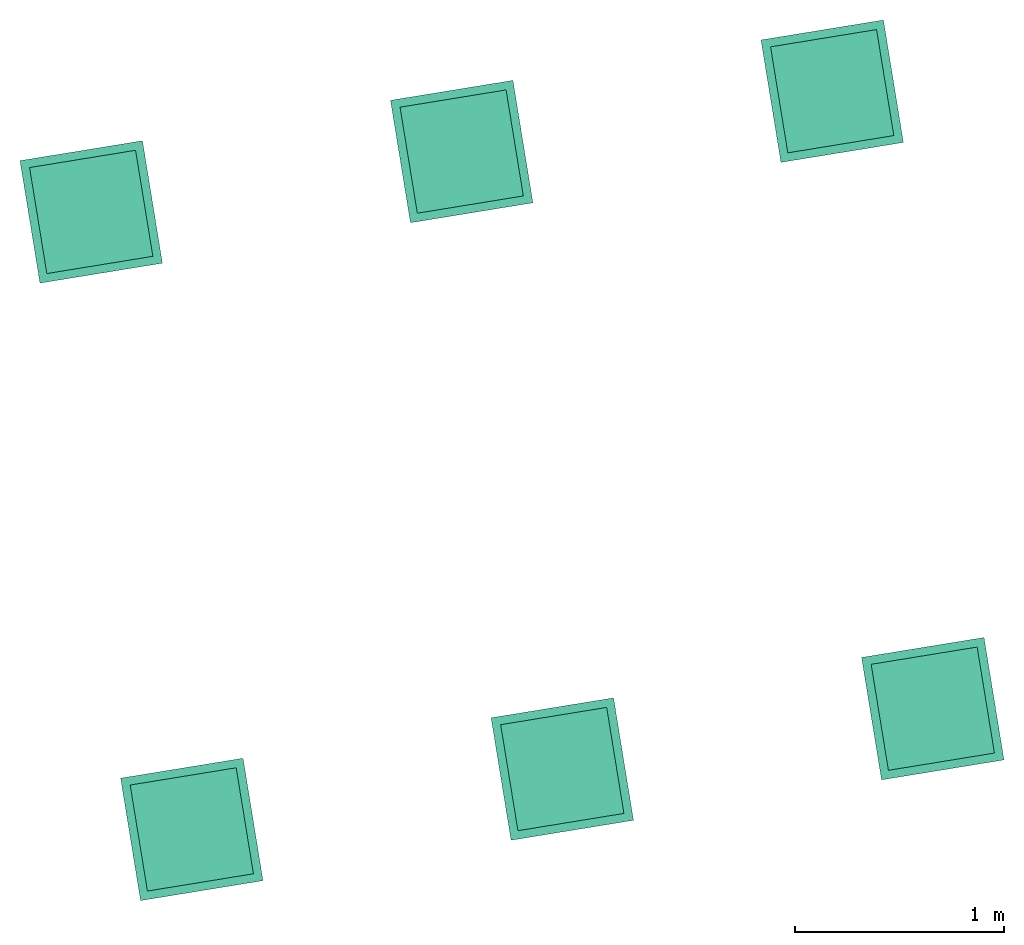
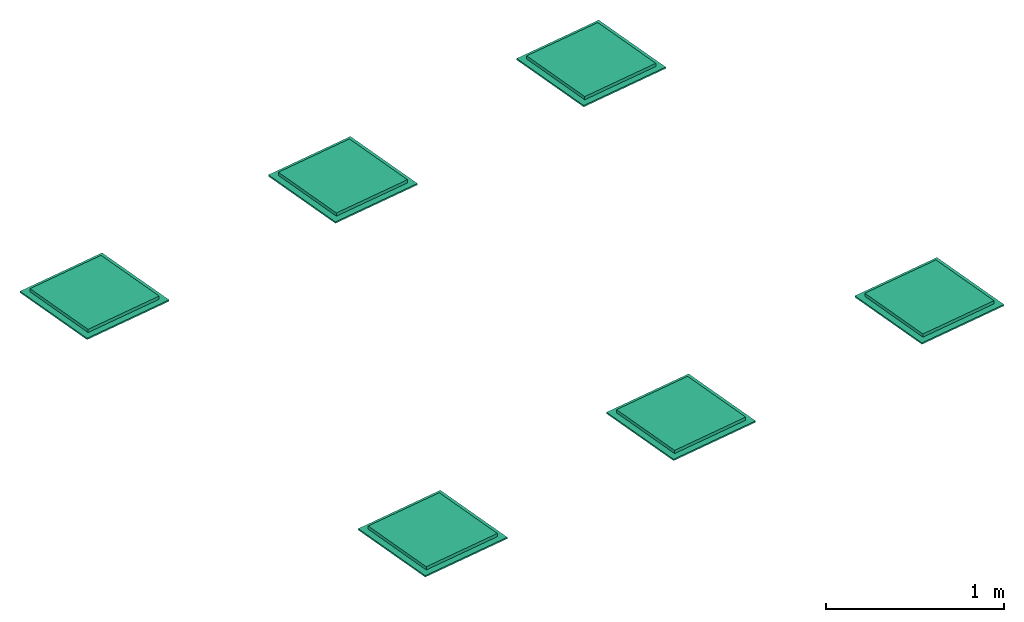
# One storey: 6 flow terminals.
"""IFC2X3 building model written with IfcOpenShell, lengths in millimetres."""

import ifcopenshell
import ifcopenshell.guid

model = None  # the IFC model being written
_history = None  # IfcOwnerHistory: only IFC2X3 demands one
_inside = {}  # id of a spatial element -> (the spatial element, [elements in it])
_under = {}  # id of a project, library or spatial element -> (it, [spatial elements below it])
_declared = {}  # id of a project -> (the project, [libraries it declares])
_typed = {}  # id of a type object -> (the type object, [elements of that type])
_made_of = {}  # id of a material, layer set ... -> (it, [elements and type objects made of it])


def new_model(schema):
    """Start an empty IFC model of exactly this schema.

    Asked for "IFC4X3", IfcOpenShell would pick the latest addendum, in which some entities
    have other attributes; the version numbers below select the first issue.
    IFC2X3 requires an IfcOwnerHistory on every rooted entity: one is made here for all.
    """
    global model, _history
    if schema == "IFC4X3":
        model = ifcopenshell.file(schema_version=(4, 3, 0, 0))
    else:
        model = ifcopenshell.file(schema=schema)
    _inside.clear()
    _under.clear()
    _declared.clear()
    _typed.clear()
    _made_of.clear()
    _history = None
    if model.schema == "IFC2X3":
        org = make("IfcOrganization", Name="unknown")
        user = make(
            "IfcPersonAndOrganization",
            ThePerson=make("IfcPerson", FamilyName="unknown"),
            TheOrganization=org,
        )
        app = make(
            "IfcApplication",
            ApplicationDeveloper=org,
            Version="unknown",
            ApplicationFullName="unknown",
            ApplicationIdentifier="unknown",
        )
        _history = make(
            "IfcOwnerHistory",
            OwningUser=user,
            OwningApplication=app,
            ChangeAction="ADDED",
            CreationDate=0,
        )
    return model


def make(cls, **values):
    """One entity of the class cls with the attributes given. An attribute that is None is left unset."""
    return model.create_entity(
        cls, **{name: value for name, value in values.items() if value is not None}
    )


def entity(cls, *values):
    """Any entity or typed value of the class cls, its attributes in the order of the schema. None: left unset."""
    e = model.create_entity(cls)
    for i, value in enumerate(values):
        if value is not None:
            e[i] = value
    return e


def rooted(cls, **values):
    """An entity with a GlobalId (a new one), such as an element, a storey or a relation."""
    return make(cls, GlobalId=ifcopenshell.guid.new(), OwnerHistory=_history, **values)


def si_unit(unit_type, name, prefix=None):
    """IfcSIUnit, for example si_unit("LENGTHUNIT", "METRE", prefix="MILLI")."""
    return make("IfcSIUnit", UnitType=unit_type, Prefix=prefix, Name=name)


def converted_unit(unit_type, name, factor, base, dimensions=None, offset=None):
    """IfcConversionBasedUnit, such as the inch: factor (a typed value) times the base unit."""
    return make(
        "IfcConversionBasedUnit"
        if offset is None
        else "IfcConversionBasedUnitWithOffset",
        ConversionOffset=offset,
        Dimensions=None
        if dimensions is None
        else entity("IfcDimensionalExponents", *dimensions),
        UnitType=unit_type,
        Name=name,
        ConversionFactor=make(
            "IfcMeasureWithUnit", ValueComponent=factor, UnitComponent=base
        ),
    )


def derived_unit(unit_type, elements):
    """IfcDerivedUnit: a product of units, each with its exponent."""
    return make(
        "IfcDerivedUnit",
        Elements=[
            make("IfcDerivedUnitElement", Unit=unit, Exponent=power)
            for unit, power in elements
        ],
        UnitType=unit_type,
    )


def assignment(units):
    """IfcUnitAssignment: the units of a project."""
    return None if units is None else make("IfcUnitAssignment", Units=units)


def point(xyz):
    """IfcCartesianPoint."""
    return None if xyz is None else make("IfcCartesianPoint", Coordinates=xyz)


def direction(xyz):
    """IfcDirection."""
    return None if xyz is None else make("IfcDirection", DirectionRatios=xyz)


def frame(location, z_axis=None, x_axis=None):
    """IfcAxis2Placement3D, a coordinate frame: its origin and axes. An axis left out is left unset."""
    return make(
        "IfcAxis2Placement3D",
        Location=point(location),
        Axis=direction(z_axis),
        RefDirection=direction(x_axis),
    )


def origin():
    """The frame at (0, 0, 0) with its axes left unset."""
    return frame((0.0, 0.0, 0.0))


def origin_with_axes():
    """The frame at (0, 0, 0) with the z axis (0, 0, 1) and the x axis (1, 0, 0) written out."""
    return frame((0.0, 0.0, 0.0), z_axis=(0.0, 0.0, 1.0), x_axis=(1.0, 0.0, 0.0))


def place(relative_to, where):
    """IfcLocalPlacement: puts the frame where relative to a parent placement (None: the world)."""
    return make(
        "IfcLocalPlacement", PlacementRelTo=relative_to, RelativePlacement=where
    )


def context(
    kind, dimensions, precision=None, world=None, true_north=None, identifier=None
):
    """IfcGeometricRepresentationContext, for example the 3D "Model" context."""
    return make(
        "IfcGeometricRepresentationContext",
        ContextIdentifier=identifier,
        ContextType=kind,
        CoordinateSpaceDimension=dimensions,
        Precision=precision,
        WorldCoordinateSystem=world,
        TrueNorth=true_north,
    )


def subcontext(parent, identifier, kind, view, scale=None):
    """IfcGeometricRepresentationSubContext, for example "Body" below "Model"."""
    return make(
        "IfcGeometricRepresentationSubContext",
        ContextIdentifier=identifier,
        ContextType=kind,
        ParentContext=parent,
        TargetScale=scale,
        TargetView=view,
    )


def project(units=None, contexts=None):
    """IfcProject with its units and contexts."""
    return rooted(
        "IfcProject",
        Name="project",
        RepresentationContexts=contexts,
        UnitsInContext=assignment(units),
    )


def spatial(cls, under=None, at=None, **own):
    """A site, building, storey or space (cls), placed at a placement, below another one or the project."""
    s = rooted(cls, ObjectPlacement=at, **own)
    if under is not None:
        _under.setdefault(under.id(), (under, []))[1].append(s)
    return s


def faces_of(points, faces, orient=None, outer=None):
    """IfcFace entities. A face is a list of loops; a loop is a list of indices into points, from 0.

    orient and outer hold one flag for each loop. By default every Orientation is true, the
    first loop of a face is its IfcFaceOuterBound and the others are IfcFaceBound.
    """
    made = []
    for i, loops in enumerate(faces):
        bounds = []
        for j, loop in enumerate(loops):
            is_outer = j == 0 if outer is None else outer[i][j]
            bounds.append(
                make(
                    "IfcFaceOuterBound" if is_outer else "IfcFaceBound",
                    Bound=make("IfcPolyLoop", Polygon=[points[k] for k in loop]),
                    Orientation=True if orient is None else orient[i][j],
                )
            )
        made.append(make("IfcFace", Bounds=bounds))
    return made


def faceted_brep(points, faces, orient=None, outer=None, voids=None):
    """IfcFacetedBrep: a solid bounded by flat faces; with voids (closed shells), ...WithVoids."""
    shared = [point(p) for p in points]
    hull = make("IfcClosedShell", CfsFaces=faces_of(shared, faces, orient, outer))
    if voids is None:
        return make("IfcFacetedBrep", Outer=hull)
    return make(
        "IfcFacetedBrepWithVoids",
        Outer=hull,
        Voids=[
            make(cls, CfsFaces=faces_of(shared, fs, o, b)) for cls, fs, o, b in voids
        ],
    )


def shape(context_of_items, identifier, shape_type, items):
    """IfcShapeRepresentation: the items that make up one representation, for example the "Body"."""
    return make(
        "IfcShapeRepresentation",
        ContextOfItems=context_of_items,
        RepresentationIdentifier=identifier,
        RepresentationType=shape_type,
        Items=items,
    )


def source(mapping_origin, context_of_items, identifier, shape_type, items):
    """IfcRepresentationMap: a shape defined once, which mapped items show again and again."""
    return make(
        "IfcRepresentationMap",
        MappingOrigin=mapping_origin,
        MappedRepresentation=shape(context_of_items, identifier, shape_type, items),
    )


def transform(
    local_origin,
    x_axis=None,
    y_axis=None,
    z_axis=None,
    scale=None,
    scale2=None,
    scale3=None,
    uniform=True,
):
    """IfcCartesianTransformationOperator3D, or its non-uniform kind. x_axis, y_axis, z_axis: its Axis1, 2, 3."""
    if uniform:
        return make(
            "IfcCartesianTransformationOperator3D",
            Axis1=direction(x_axis),
            Axis2=direction(y_axis),
            LocalOrigin=point(local_origin),
            Scale=scale,
            Axis3=direction(z_axis),
        )
    return make(
        "IfcCartesianTransformationOperator3DnonUniform",
        Axis1=direction(x_axis),
        Axis2=direction(y_axis),
        LocalOrigin=point(local_origin),
        Scale=scale,
        Axis3=direction(z_axis),
        Scale2=scale2,
        Scale3=scale3,
    )


def mapped(mapping_source, mapping_target):
    """IfcMappedItem: shows the shape of a source again, moved by a transform."""
    return make(
        "IfcMappedItem", MappingSource=mapping_source, MappingTarget=mapping_target
    )


def material(Name=None, Category=None):
    """IfcMaterial."""
    return make("IfcMaterial", Name=Name, Category=Category)


def material_list(materials):
    """IfcMaterialList."""
    return make("IfcMaterialList", Materials=materials)


def made_of(thing, what):
    """Note that an element or type object is made of a material, layer set ...; save() writes the relation."""
    if what is not None:
        _made_of.setdefault(what.id(), (what, []))[1].append(thing)
    return thing


def type_object(cls, material=None, **own):
    """A type object (cls), such as IfcWallType, which elements share."""
    return made_of(rooted(cls, **own), material)


def element(
    cls,
    number,
    at=None,
    inside=None,
    cuts=None,
    type_object=None,
    material=None,
    context=None,
    identifier="Body",
    shape_type=None,
    held_by="IfcProductDefinitionShape",
    body=None,
    shapes=None,
    **own,
):
    """One element of the class cls, such as IfcWall. Its Tag is "e" and its number.

    at: its placement. inside: the storey or other place that contains it. cuts: it is an
    opening in that element (IfcRelVoidsElement). A single representation is given by context,
    identifier, shape_type and body (its items); several are given by shapes. held_by: the class
    of the entity that holds the representations. save() writes the other relations.
    """
    e = rooted(cls, Tag="e%d" % number, ObjectPlacement=at, **own)
    if body is not None:
        shapes = [shape(context, identifier, shape_type, body)]
    if shapes is not None:
        e.Representation = make(held_by, Representations=shapes)
    if inside is not None:
        _inside.setdefault(inside.id(), (inside, []))[1].append(e)
    if cuts is not None:
        rooted(
            "IfcRelVoidsElement", RelatingBuildingElement=cuts, RelatedOpeningElement=e
        )
    if type_object is not None:
        _typed.setdefault(type_object.id(), (type_object, []))[1].append(e)
    return made_of(e, material)


def aggregate(whole, parts):
    """IfcRelAggregates: a whole, such as a stair, and the parts it consists of."""
    return rooted("IfcRelAggregates", RelatingObject=whole, RelatedObjects=parts)


def save(model, path):
    """Write the relations noted so far, then the file.

    IfcRelAggregates (storeys below a building ...), IfcRelContainedInSpatialStructure (elements
    in a storey), IfcRelDefinesByType, IfcRelAssociatesMaterial and IfcRelDeclares: one each for
    every whole, place, type object, material and project.
    """
    for whole, parts in _under.values():
        aggregate(whole, parts)
    for where, things in _inside.values():
        rooted(
            "IfcRelContainedInSpatialStructure",
            RelatedElements=things,
            RelatingStructure=where,
        )
    for kind, things in _typed.values():
        rooted("IfcRelDefinesByType", RelatedObjects=things, RelatingType=kind)
    for what, things in _made_of.values():
        rooted("IfcRelAssociatesMaterial", RelatedObjects=things, RelatingMaterial=what)
    for by, libraries in _declared.values():
        rooted("IfcRelDeclares", RelatingContext=by, RelatedDefinitions=libraries)
    model.write(path)


model = new_model("IFC2X3")

# Units and contexts
plan_context = context("Plan", 3, precision=1e-05, world=origin_with_axes())
model_context = context("Model", 3, precision=0.01, world=origin(), true_north=direction((6.12323399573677e-17, 1.0)))
body_context = subcontext(model_context, "Body", "Model", "MODEL_VIEW")
ifc_project = project(units=[converted_unit("PLANEANGLEUNIT", "DEGREE", entity("IfcPositiveLengthMeasure", 0.0174532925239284), si_unit("PLANEANGLEUNIT", "RADIAN"), dimensions=[0, 0, 0, 0, 0, 0, 0]), si_unit("AREAUNIT", "SQUARE_METRE"), si_unit("LENGTHUNIT", "METRE", prefix="MILLI"), si_unit("MASSUNIT", "GRAM", prefix="KILO"), si_unit("POWERUNIT", "WATT"), si_unit("PRESSUREUNIT", "PASCAL", prefix="KILO"), si_unit("FORCEUNIT", "NEWTON", prefix="KILO"), si_unit("ELECTRICVOLTAGEUNIT", "VOLT"), si_unit("ELECTRICCURRENTUNIT", "AMPERE"), si_unit("THERMODYNAMICTEMPERATUREUNIT", "DEGREE_CELSIUS"), si_unit("TIMEUNIT", "SECOND"), si_unit("VOLUMEUNIT", "CUBIC_METRE"), derived_unit("LINEARVELOCITYUNIT", [(si_unit("LENGTHUNIT", "METRE"), 1), (si_unit("TIMEUNIT", "SECOND"), -1)]), derived_unit("VOLUMETRICFLOWRATEUNIT", [(si_unit("VOLUMEUNIT", "CUBIC_METRE"), 1), (si_unit("TIMEUNIT", "SECOND"), -1)]), derived_unit("THERMALTRANSMITTANCEUNIT", [(si_unit("POWERUNIT", "WATT"), 1), (si_unit("THERMODYNAMICTEMPERATUREUNIT", "KELVIN"), -1), (si_unit("AREAUNIT", "SQUARE_METRE"), -1)]), derived_unit("SOUNDPRESSUREUNIT", [(si_unit("PRESSUREUNIT", "PASCAL"), 1)])], contexts=[model_context, plan_context])

# Site, building, storey
site_placement = place(None, frame((5.09380697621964e-08, 5.80416781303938e-08, 0.0), z_axis=(0.0, 0.0, 1.0), x_axis=(-0.160806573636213, 0.986985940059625, 0.0)))
site = spatial("IfcSite", under=ifc_project, at=site_placement, Name="Default", CompositionType="ELEMENT")
building_placement = place(site_placement, frame((0.0, 0.0, 0.0), z_axis=(0.0, 0.0, 1.0), x_axis=(1.0, -2.77555756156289e-17, 0.0)))
building = spatial("IfcBuilding", under=site, at=building_placement, Name="Bygning (endres i Project Information)", CompositionType="ELEMENT")
storey_placement = place(building_placement, frame((0.0, 0.0, 51360.0000000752), z_axis=(0.0, 0.0, 1.0), x_axis=(1.0, -2.77555756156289e-17, 0.0)))
storey = spatial("IfcBuildingStorey", under=building, at=storey_placement, Name="H01-Nivå D+0,36", CompositionType="ELEMENT", Elevation=51360.0000000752)

# Flow terminals
ifc_material_1 = material(Name="Plastic, Opaque White")
ifc_material_2 = material(Name="<Unnamed>")
ifc_material_list = material_list([ifc_material_1, ifc_material_2])
light_fixture_type = type_object("IfcLightFixtureType", Name="Panel 600x600:C77-R600x600-WH-5000-HF-840-LI-4xSM", PredefinedType="NOTDEFINED", material=ifc_material_list)
shared_shape = source(origin(), body_context, "Body", "Brep", [
    faceted_brep([(297.499999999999, 417.460539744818, 0.0), (-297.500000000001, 417.460539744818, 0.0), (-297.500000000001, -177.539460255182, 0.0), (297.499999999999, -177.539460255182, 0.0), (297.499999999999, 417.460539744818, -10.0), (297.499999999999, -177.539460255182, -10.0), (-297.500000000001, -177.539460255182, -10.0), (-297.500000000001, 417.460539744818, -10.0), (-141.500000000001, 318.460539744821, -10.0), (-198.500000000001, 318.460539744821, -10.0), (-198.500000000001, 261.46053974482, -10.0), (-141.500000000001, 261.46053974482, -10.0), (-73.5000000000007, 318.46053974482, -10.0), (-130.500000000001, 318.46053974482, -10.0), (-130.500000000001, 261.46053974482, -10.0), (-73.5000000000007, 261.46053974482, -10.0), (130.499999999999, 318.460539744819, -10.0), (73.4999999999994, 318.460539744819, -10.0), (73.4999999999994, 261.460539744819, -10.0), (130.499999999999, 261.460539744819, -10.0), (198.499999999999, 318.460539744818, -10.0), (141.499999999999, 318.460539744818, -10.0), (141.499999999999, 261.460539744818, -10.0), (198.499999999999, 261.460539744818, -10.0), (-141.501953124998, 250.461516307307, -10.0), (-198.501953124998, 250.461516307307, -10.0), (-198.501953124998, 193.461516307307, -10.0), (-141.501953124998, 193.461516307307, -10.0), (-73.5019531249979, 250.461516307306, -10.0), (-130.501953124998, 250.461516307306, -10.0), (-130.501953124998, 193.461516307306, -10.0), (-73.501953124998, 193.461516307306, -10.0), (130.498046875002, 250.461516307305, -10.0), (73.4980468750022, 250.461516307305, -10.0), (73.4980468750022, 193.461516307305, -10.0), (130.498046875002, 193.461516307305, -10.0), (198.498046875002, 250.461516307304, -10.0), (141.498046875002, 250.461516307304, -10.0), (141.498046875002, 193.461516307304, -10.0), (198.498046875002, 193.461516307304, -10.0), (-141.499511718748, 46.4602956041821, -10.0), (-198.499511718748, 46.4602956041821, -10.0), (-198.499511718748, -10.5397043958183, -10.0), (-141.499511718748, -10.5397043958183, -10.0), (-73.4995117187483, 46.4602956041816, -10.0), (-130.499511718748, 46.4602956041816, -10.0), (-130.499511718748, -10.5397043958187, -10.0), (-73.4995117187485, -10.5397043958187, -10.0), (130.500488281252, 46.4602956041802, -10.0), (73.5004882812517, 46.4602956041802, -10.0), (73.5004882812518, -10.5397043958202, -10.0), (130.500488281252, -10.5397043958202, -10.0), (198.500488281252, 46.4602956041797, -10.0), (141.500488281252, 46.4602956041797, -10.0), (141.500488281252, -10.5397043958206, -10.0), (198.500488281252, -10.5397043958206, -10.0), (-141.499755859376, -21.5397043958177, -10.0), (-198.499755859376, -21.5397043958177, -10.0), (-198.499755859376, -78.539704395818, -10.0), (-141.499755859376, -78.539704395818, -10.0), (-73.4997558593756, -21.5397043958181, -10.0), (-130.499755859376, -21.5397043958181, -10.0), (-130.499755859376, -78.5397043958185, -10.0), (-73.4997558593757, -78.5397043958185, -10.0), (130.500244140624, -21.5397043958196, -10.0), (73.5002441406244, -21.5397043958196, -10.0), (73.5002441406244, -78.5397043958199, -10.0), (130.500244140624, -78.5397043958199, -10.0), (198.500244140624, -21.5397043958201, -10.0), (141.500244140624, -21.5397043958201, -10.0), (141.500244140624, -78.5397043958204, -10.0), (198.500244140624, -78.5397043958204, -10.0), (-141.499755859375, 182.460783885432, -10.0), (-198.499755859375, 182.460783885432, -10.0), (-198.499755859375, 125.460783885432, -10.0), (-141.499755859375, 125.460783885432, -10.0), (-73.4997558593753, 182.460783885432, -10.0), (-130.499755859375, 182.460783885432, -10.0), (-130.499755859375, 125.460783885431, -10.0), (-73.4997558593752, 125.460783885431, -10.0), (130.500244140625, 182.46078388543, -10.0), (73.5002441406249, 182.46078388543, -10.0), (73.5002441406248, 125.46078388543, -10.0), (130.500244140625, 125.46078388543, -10.0), (198.500244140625, 182.46078388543, -10.0), (141.500244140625, 182.46078388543, -10.0), (141.500244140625, 125.460783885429, -10.0), (198.500244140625, 125.460783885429, -10.0), (-141.49609375, 114.45549546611, -10.0), (-198.49609375, 114.45549546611, -10.0), (-198.49609375, 57.4554954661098, -10.0), (-141.49609375, 57.4554954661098, -10.0), (-73.4960937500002, 114.45549546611, -10.0), (-130.49609375, 114.45549546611, -10.0), (-130.49609375, 57.4554954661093, -10.0), (-73.4960937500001, 57.4554954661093, -10.0), (130.50390625, 114.455495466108, -10.0), (73.50390625, 114.455495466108, -10.0), (73.5039062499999, 57.4554954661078, -10.0), (130.50390625, 57.4554954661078, -10.0), (198.50390625, 114.455495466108, -10.0), (141.50390625, 114.455495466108, -10.0), (141.50390625, 57.4554954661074, -10.0), (198.50390625, 57.4554954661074, -10.0), (-141.5, 386.45482956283, -10.0), (-198.500000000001, 386.45482956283, -10.0), (-198.500000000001, 329.460539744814, -10.0), (-141.5, 329.460539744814, -10.0), (-73.5000000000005, 386.45482956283, -10.0), (-130.500000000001, 386.45482956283, -10.0), (-130.500000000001, 329.460539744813, -10.0), (-73.5000000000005, 329.460539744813, -10.0), (130.5, 386.454829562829, -10.0), (73.4999999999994, 386.454829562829, -10.0), (73.4999999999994, 329.460539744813, -10.0), (130.5, 329.460539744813, -10.0), (198.5, 386.454829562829, -10.0), (141.499999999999, 386.454829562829, -10.0), (141.499999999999, 329.460539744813, -10.0), (198.5, 329.460539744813, -10.0), (-141.500000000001, -89.5394602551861, -10.0), (-198.500000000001, -89.5394602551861, -10.0), (-198.500000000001, -146.289460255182, -10.0), (-141.500000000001, -146.289460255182, -10.0), (-73.5000000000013, -89.5394602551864, -10.0), (-130.500000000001, -89.5394602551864, -10.0), (-130.500000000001, -146.289460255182, -10.0), (-73.5000000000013, -146.289460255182, -10.0), (130.499999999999, -89.539460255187, -10.0), (73.4999999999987, -89.539460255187, -10.0), (73.4999999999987, -146.289460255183, -10.0), (130.499999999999, -146.289460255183, -10.0), (198.499999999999, -89.5394602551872, -10.0), (141.499999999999, -89.5394602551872, -10.0), (141.499999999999, -146.289460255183, -10.0), (198.499999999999, -146.289460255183, -10.0), (198.499999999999, 318.460539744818, -3.0), (198.499999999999, 261.460539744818, -3.0), (141.499999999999, 261.460539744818, -3.0), (141.499999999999, 318.460539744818, -3.0), (-141.500000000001, 318.460539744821, -3.0), (-198.500000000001, 318.460539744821, -3.0), (-198.500000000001, 261.46053974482, -3.0), (-141.500000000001, 261.46053974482, -3.0), (-73.5000000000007, 318.46053974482, -3.0), (-130.500000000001, 318.46053974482, -3.0), (-130.500000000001, 261.46053974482, -3.0), (-73.5000000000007, 261.46053974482, -3.0), (130.499999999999, 318.460539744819, -3.0), (73.4999999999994, 318.460539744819, -3.0), (73.4999999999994, 261.460539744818, -3.0), (130.499999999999, 261.460539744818, -3.0), (198.498046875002, 250.461516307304, -3.0), (198.498046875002, 193.461516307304, -3.0), (141.498046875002, 193.461516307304, -3.0), (141.498046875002, 250.461516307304, -3.0), (-141.501953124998, 250.461516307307, -3.0), (-198.501953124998, 250.461516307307, -3.0), (-198.501953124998, 193.461516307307, -3.0), (-141.501953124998, 193.461516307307, -3.0), (-73.5019531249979, 250.461516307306, -3.0), (-130.501953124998, 250.461516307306, -3.0), (-130.501953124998, 193.461516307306, -3.0), (-73.501953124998, 193.461516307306, -3.0), (130.498046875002, 250.461516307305, -3.0), (73.4980468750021, 250.461516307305, -3.0), (73.4980468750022, 193.461516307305, -3.0), (130.498046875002, 193.461516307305, -3.0), (198.500488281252, 46.4602956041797, -3.0), (198.500488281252, -10.5397043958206, -3.0), (141.500488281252, -10.5397043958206, -3.0), (141.500488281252, 46.4602956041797, -3.0), (-141.499511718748, 46.4602956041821, -3.0), (-198.499511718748, 46.4602956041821, -3.0), (-198.499511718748, -10.5397043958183, -3.0), (-141.499511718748, -10.5397043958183, -3.0), (-73.4995117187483, 46.4602956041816, -3.0), (-130.499511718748, 46.4602956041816, -3.0), (-130.499511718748, -10.5397043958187, -3.0), (-73.4995117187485, -10.5397043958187, -3.0), (130.500488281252, 46.4602956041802, -3.0), (73.5004882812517, 46.4602956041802, -3.0), (73.5004882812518, -10.5397043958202, -3.0), (130.500488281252, -10.5397043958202, -3.0), (198.500244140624, -21.5397043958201, -3.0), (198.500244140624, -78.5397043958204, -3.0), (141.500244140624, -78.5397043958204, -3.0), (141.500244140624, -21.5397043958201, -3.0), (-141.499755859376, -21.5397043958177, -3.0), (-198.499755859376, -21.5397043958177, -3.0), (-198.499755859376, -78.539704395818, -3.0), (-141.499755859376, -78.539704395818, -3.0), (-73.4997558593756, -21.5397043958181, -3.0), (-130.499755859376, -21.5397043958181, -3.0), (-130.499755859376, -78.5397043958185, -3.0), (-73.4997558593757, -78.5397043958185, -3.0), (130.500244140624, -21.5397043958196, -3.0), (73.5002441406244, -21.5397043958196, -3.0), (73.5002441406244, -78.53970439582, -3.0), (130.500244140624, -78.53970439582, -3.0), (198.500244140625, 182.46078388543, -3.0), (198.500244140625, 125.460783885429, -3.0), (141.500244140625, 125.460783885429, -3.0), (141.500244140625, 182.46078388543, -3.0), (-141.499755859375, 182.460783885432, -3.0), (-198.499755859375, 182.460783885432, -3.0), (-198.499755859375, 125.460783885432, -3.0), (-141.499755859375, 125.460783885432, -3.0), (-73.4997558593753, 182.460783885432, -3.0), (-130.499755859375, 182.460783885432, -3.0), (-130.499755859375, 125.460783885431, -3.0), (-73.4997558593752, 125.460783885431, -3.0), (130.500244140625, 182.46078388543, -3.0), (73.5002441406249, 182.46078388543, -3.0), (73.5002441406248, 125.46078388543, -3.0), (130.500244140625, 125.46078388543, -3.0), (198.50390625, 114.455495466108, -3.0), (198.50390625, 57.4554954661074, -3.0), (141.50390625, 57.4554954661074, -3.0), (141.50390625, 114.455495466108, -3.0), (-141.49609375, 114.45549546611, -3.0), (-198.49609375, 114.45549546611, -3.0), (-198.49609375, 57.4554954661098, -3.0), (-141.49609375, 57.4554954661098, -3.0), (-73.4960937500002, 114.45549546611, -3.0), (-130.49609375, 114.45549546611, -3.0), (-130.49609375, 57.4554954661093, -3.0), (-73.4960937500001, 57.4554954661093, -3.0), (130.50390625, 114.455495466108, -3.0), (73.50390625, 114.455495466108, -3.0), (73.5039062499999, 57.4554954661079, -3.0), (130.50390625, 57.4554954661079, -3.0), (198.5, 386.454829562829, -3.0), (198.5, 329.460539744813, -3.0), (141.499999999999, 329.460539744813, -3.0), (141.499999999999, 386.454829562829, -3.0), (-141.5, 386.45482956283, -3.0), (-198.500000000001, 386.45482956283, -3.0), (-198.500000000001, 329.460539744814, -3.0), (-141.5, 329.460539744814, -3.0), (-73.5000000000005, 386.45482956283, -3.0), (-130.500000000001, 386.45482956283, -3.0), (-130.500000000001, 329.460539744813, -3.0), (-73.5000000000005, 329.460539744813, -3.0), (130.5, 386.454829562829, -3.0), (73.4999999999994, 386.454829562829, -3.0), (73.4999999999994, 329.460539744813, -3.0), (130.5, 329.460539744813, -3.0), (198.499999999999, -89.5394602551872, -3.0), (198.499999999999, -146.289460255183, -3.0), (141.499999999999, -146.289460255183, -3.0), (141.499999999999, -89.5394602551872, -3.0), (-141.500000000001, -89.5394602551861, -3.0), (-198.500000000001, -89.5394602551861, -3.0), (-198.500000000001, -146.289460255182, -3.0), (-141.500000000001, -146.289460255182, -3.0), (-73.5000000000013, -89.5394602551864, -3.0), (-130.500000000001, -89.5394602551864, -3.0), (-130.500000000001, -146.289460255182, -3.0), (-73.5000000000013, -146.289460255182, -3.0), (130.499999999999, -89.539460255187, -3.0), (73.4999999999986, -89.539460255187, -3.0), (73.4999999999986, -146.289460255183, -3.0), (130.499999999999, -146.289460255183, -3.0)], [[[0, 1, 2, 3]], [[4, 5, 6, 7], [8, 9, 10, 11], [12, 13, 14, 15], [16, 17, 18, 19], [20, 21, 22, 23], [24, 25, 26, 27], [28, 29, 30, 31], [32, 33, 34, 35], [36, 37, 38, 39], [40, 41, 42, 43], [44, 45, 46, 47], [48, 49, 50, 51], [52, 53, 54, 55], [56, 57, 58, 59], [60, 61, 62, 63], [64, 65, 66, 67], [68, 69, 70, 71], [72, 73, 74, 75], [76, 77, 78, 79], [80, 81, 82, 83], [84, 85, 86, 87], [88, 89, 90, 91], [92, 93, 94, 95], [96, 97, 98, 99], [100, 101, 102, 103], [104, 105, 106, 107], [108, 109, 110, 111], [112, 113, 114, 115], [116, 117, 118, 119], [120, 121, 122, 123], [124, 125, 126, 127], [128, 129, 130, 131], [132, 133, 134, 135]], [[1, 0, 4, 7]], [[2, 1, 7, 6]], [[3, 2, 6, 5]], [[0, 3, 5, 4]], [[136, 137, 138, 139]], [[140, 141, 9, 8]], [[141, 142, 10, 9]], [[142, 143, 11, 10]], [[143, 140, 8, 11]], [[144, 145, 13, 12]], [[145, 146, 14, 13]], [[146, 147, 15, 14]], [[147, 144, 12, 15]], [[148, 149, 17, 16]], [[149, 150, 18, 17]], [[150, 151, 19, 18]], [[151, 148, 16, 19]], [[136, 139, 21, 20]], [[139, 138, 22, 21]], [[138, 137, 23, 22]], [[137, 136, 20, 23]], [[152, 153, 154, 155]], [[156, 157, 25, 24]], [[157, 158, 26, 25]], [[158, 159, 27, 26]], [[159, 156, 24, 27]], [[160, 161, 29, 28]], [[161, 162, 30, 29]], [[162, 163, 31, 30]], [[163, 160, 28, 31]], [[164, 165, 33, 32]], [[165, 166, 34, 33]], [[166, 167, 35, 34]], [[167, 164, 32, 35]], [[152, 155, 37, 36]], [[155, 154, 38, 37]], [[154, 153, 39, 38]], [[153, 152, 36, 39]], [[168, 169, 170, 171]], [[172, 173, 41, 40]], [[173, 174, 42, 41]], [[174, 175, 43, 42]], [[175, 172, 40, 43]], [[176, 177, 45, 44]], [[177, 178, 46, 45]], [[178, 179, 47, 46]], [[179, 176, 44, 47]], [[180, 181, 49, 48]], [[181, 182, 50, 49]], [[182, 183, 51, 50]], [[183, 180, 48, 51]], [[168, 171, 53, 52]], [[171, 170, 54, 53]], [[170, 169, 55, 54]], [[169, 168, 52, 55]], [[184, 185, 186, 187]], [[188, 189, 57, 56]], [[189, 190, 58, 57]], [[190, 191, 59, 58]], [[191, 188, 56, 59]], [[192, 193, 61, 60]], [[193, 194, 62, 61]], [[194, 195, 63, 62]], [[195, 192, 60, 63]], [[196, 197, 65, 64]], [[197, 198, 66, 65]], [[198, 199, 67, 66]], [[199, 196, 64, 67]], [[184, 187, 69, 68]], [[187, 186, 70, 69]], [[186, 185, 71, 70]], [[185, 184, 68, 71]], [[200, 201, 202, 203]], [[204, 205, 73, 72]], [[205, 206, 74, 73]], [[206, 207, 75, 74]], [[207, 204, 72, 75]], [[208, 209, 77, 76]], [[209, 210, 78, 77]], [[210, 211, 79, 78]], [[211, 208, 76, 79]], [[212, 213, 81, 80]], [[213, 214, 82, 81]], [[214, 215, 83, 82]], [[215, 212, 80, 83]], [[200, 203, 85, 84]], [[203, 202, 86, 85]], [[202, 201, 87, 86]], [[201, 200, 84, 87]], [[216, 217, 218, 219]], [[220, 221, 89, 88]], [[221, 222, 90, 89]], [[222, 223, 91, 90]], [[223, 220, 88, 91]], [[224, 225, 93, 92]], [[225, 226, 94, 93]], [[226, 227, 95, 94]], [[227, 224, 92, 95]], [[228, 229, 97, 96]], [[229, 230, 98, 97]], [[230, 231, 99, 98]], [[231, 228, 96, 99]], [[216, 219, 101, 100]], [[219, 218, 102, 101]], [[218, 217, 103, 102]], [[217, 216, 100, 103]], [[232, 233, 234, 235]], [[236, 237, 105, 104]], [[237, 238, 106, 105]], [[238, 239, 107, 106]], [[239, 236, 104, 107]], [[240, 241, 109, 108]], [[241, 242, 110, 109]], [[242, 243, 111, 110]], [[243, 240, 108, 111]], [[244, 245, 113, 112]], [[245, 246, 114, 113]], [[246, 247, 115, 114]], [[247, 244, 112, 115]], [[232, 235, 117, 116]], [[235, 234, 118, 117]], [[234, 233, 119, 118]], [[233, 232, 116, 119]], [[248, 249, 250, 251]], [[252, 253, 121, 120]], [[253, 254, 122, 121]], [[254, 255, 123, 122]], [[255, 252, 120, 123]], [[256, 257, 125, 124]], [[257, 258, 126, 125]], [[258, 259, 127, 126]], [[259, 256, 124, 127]], [[260, 261, 129, 128]], [[261, 262, 130, 129]], [[262, 263, 131, 130]], [[263, 260, 128, 131]], [[248, 251, 133, 132]], [[251, 250, 134, 133]], [[250, 249, 135, 134]], [[249, 248, 132, 135]], [[260, 263, 262, 261]], [[256, 259, 258, 257]], [[252, 255, 254, 253]], [[244, 247, 246, 245]], [[240, 243, 242, 241]], [[236, 239, 238, 237]], [[228, 231, 230, 229]], [[224, 227, 226, 225]], [[220, 223, 222, 221]], [[212, 215, 214, 213]], [[208, 211, 210, 209]], [[204, 207, 206, 205]], [[196, 199, 198, 197]], [[192, 195, 194, 193]], [[188, 191, 190, 189]], [[180, 183, 182, 181]], [[176, 179, 178, 177]], [[172, 175, 174, 173]], [[164, 167, 166, 165]], [[160, 163, 162, 161]], [[156, 159, 158, 157]], [[148, 151, 150, 149]], [[144, 147, 146, 145]], [[140, 143, 142, 141]]]),
    faceted_brep([(257.500000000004, 377.460539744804, 22.0), (-257.500000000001, 377.460539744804, 22.0), (-257.500000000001, -137.539460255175, 22.0), (257.500000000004, -137.539460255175, 22.0), (257.500000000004, 377.460539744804, 0.0), (257.500000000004, -137.539460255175, 0.0), (-257.500000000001, -137.539460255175, 0.0), (-257.500000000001, 377.460539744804, 0.0)], [[[0, 1, 2, 3]], [[4, 5, 6, 7]], [[1, 0, 4, 7]], [[2, 1, 7, 6]], [[3, 2, 6, 5]], [[0, 3, 5, 4]]]),
])
for number, where, z_axis, x_axis in (
    (1, (973778.449453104, -367894.523457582, 2100.0), (0.0, 0.0, 1.0), (1.0, -2.77555756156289e-17, 0.0)),
    (2, (976778.449453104, -367894.523457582, 2100.0), (0.0, 0.0, 1.0), (1.0, -2.77555756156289e-17, 0.0)),
    (3, (973778.449453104, -369694.523457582, 2100.0), (0.0, 0.0, 1.0), (1.0, -2.77555756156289e-17, 0.0)),
    (4, (976778.449453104, -369694.523457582, 2100.0), (0.0, 0.0, 1.0), (1.0, -2.77555756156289e-17, 0.0)),
    (5, (973778.449453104, -371494.523457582, 2100.0), (0.0, 0.0, 1.0), (1.0, -2.77555756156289e-17, 0.0)),
    (6, (976778.449453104, -371494.523457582, 2100.0), (0.0, 0.0, 1.0), (1.0, -2.77555756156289e-17, 0.0)),
):
    element("IfcFlowTerminal", number, at=place(storey_placement, frame(where, z_axis=z_axis, x_axis=x_axis)), inside=storey, type_object=light_fixture_type, material=ifc_material_list, Name="Panel 600x600:C77-R600x600-WH-5000-HF-840-LI-4xSM", ObjectType="Panel 600x600:C77-R600x600-WH-5000-HF-840-LI-4xSM", context=body_context, shape_type="MappedRepresentation", body=[
        mapped(shared_shape, transform((0.0, 0.0, 0.0), scale=1.0)),
    ])

save(model, "model.ifc")
